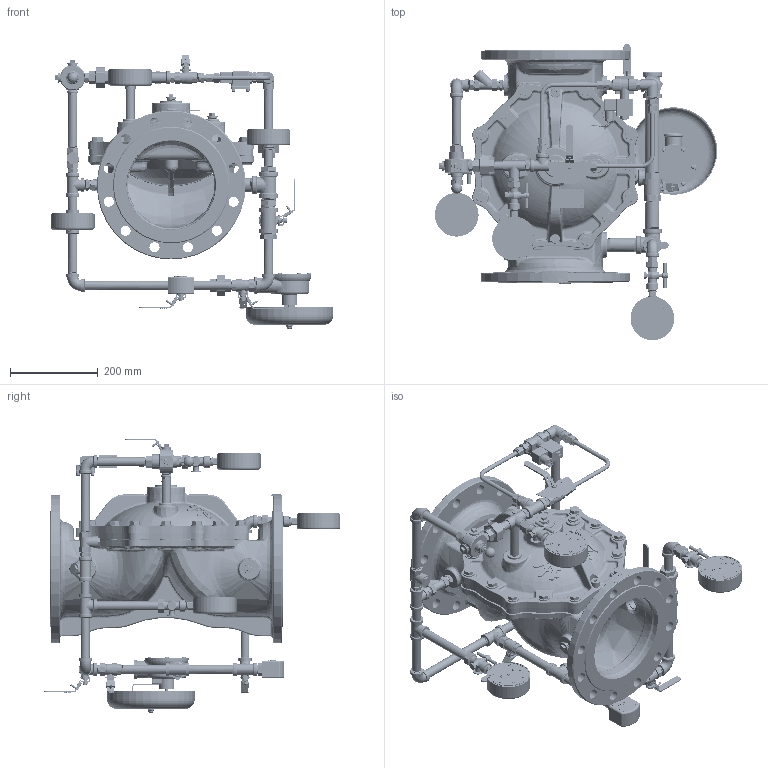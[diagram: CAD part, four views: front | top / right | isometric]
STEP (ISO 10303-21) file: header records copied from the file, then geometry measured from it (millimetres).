
FILE_DESCRIPTION((''),'2;1');
FILE_NAME('2000001_ASM','2024-04-03T17:37:24',('administrator'),(''),'CREO PARAMETRIC BY PTC INC, 2021404','CREO PARAMETRIC BY PTC INC, 2021404','');
FILE_SCHEMA(('CONFIG_CONTROL_DESIGN'));
Products named in the file (57): HHB-200GMF-2019; DN200-000; HHB-200GMF-GZ-2019; M1400; M140003; G9000; _0001; G4000; 0001; 0002; __10002; _1-SOLID1_10001; _1-SOLID1_10002; __10003; _1-SOLID1_10003; _1-SOLID1_10004; __10001_ASM; _0002_ASM; 0003; 0004; G13000; T0001; G15000; 0005; G5000; G16000; 0006; 0021; 0022; G6000; 0023; 0024; 0025; G20000; 0011; 0012; 00; 0014; 0015; L2000001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
Assembly tree (127 placements, depth 4):
  2000001_ASM
    HHB-200GMF-2019
    DN200-000
    HHB-200GMF-GZ-2019
    M1400  x14
    M1400  x14
    M140003  x2
    G9000
    _0001
    G4000
    0001  x3
    0002  x9
    _0002_ASM
      __10001_ASM
        __10002
        _1-SOLID1_10001
        _1-SOLID1_10002
        __10003
        _1-SOLID1_10003
        _1-SOLID1_10004
    0003  x6
    0004  x5
    G13000  x3
    T0001
    G15000
    0005
    G5000
    G16000
    0006  x3
    G9000  x2
    0021  x2
    0022  x2
    G6000  x3
    0023
    0024
    0025
    G20000
    0011
    0012
    00  x4
    0014
    0015
    L2000001
    L2000002
    G10000
    G11000  x4
    0016
    G12000  x2
    0017  x2
    G21000
    0018
    0019
    0020
    1000001  x3
    10001  x7
    _DN2000001
    _0003
Bounding box: 645 x 678.09 x 627.15 mm (x, y, z)
Volume: 12491460.7 mm3; surface area: 3267405.7 mm2
Topology: 130 solids, 145 shells, 15676 faces, 41135 edges, 26310 vertices
Faces by surface type: plane 6127, cylinder 3382, bspline 2729, cone 1800, torus 973, extrusion 494, sphere 158, revolution 13
Entity records: 533545 total; most frequent: CARTESIAN_POINT 280399, ORIENTED_EDGE 56406, DIRECTION 45943, EDGE_CURVE 28211, VERTEX_POINT 18023, VECTOR 16400, LINE 16124, AXIS2_PLACEMENT_3D 14765
